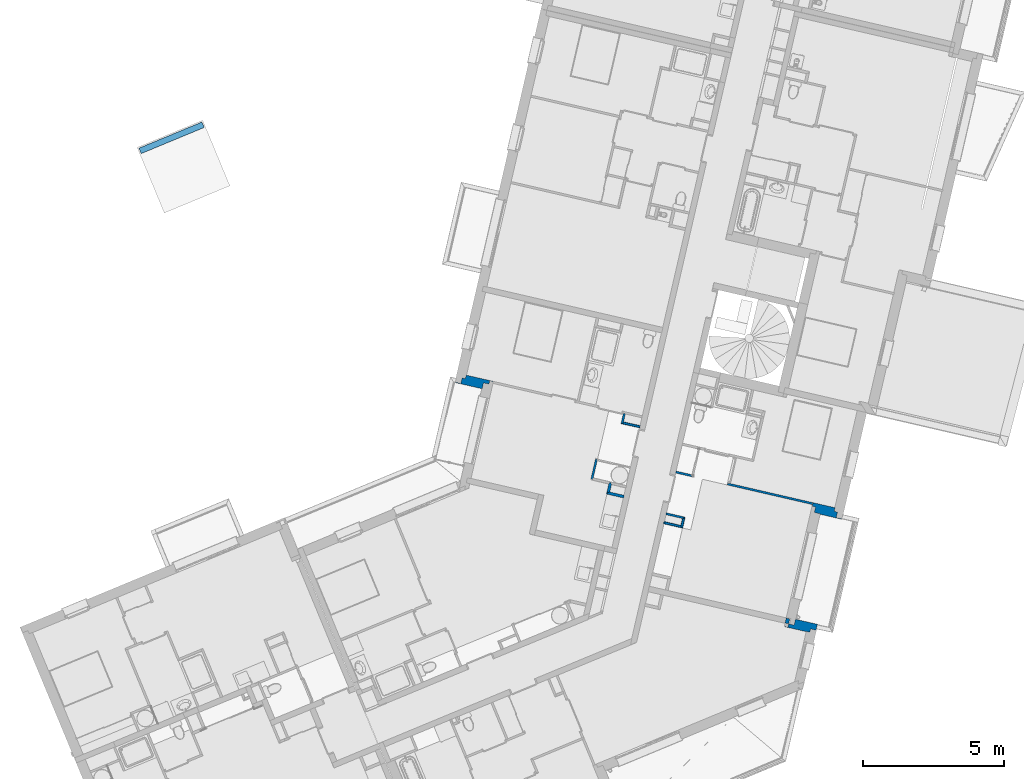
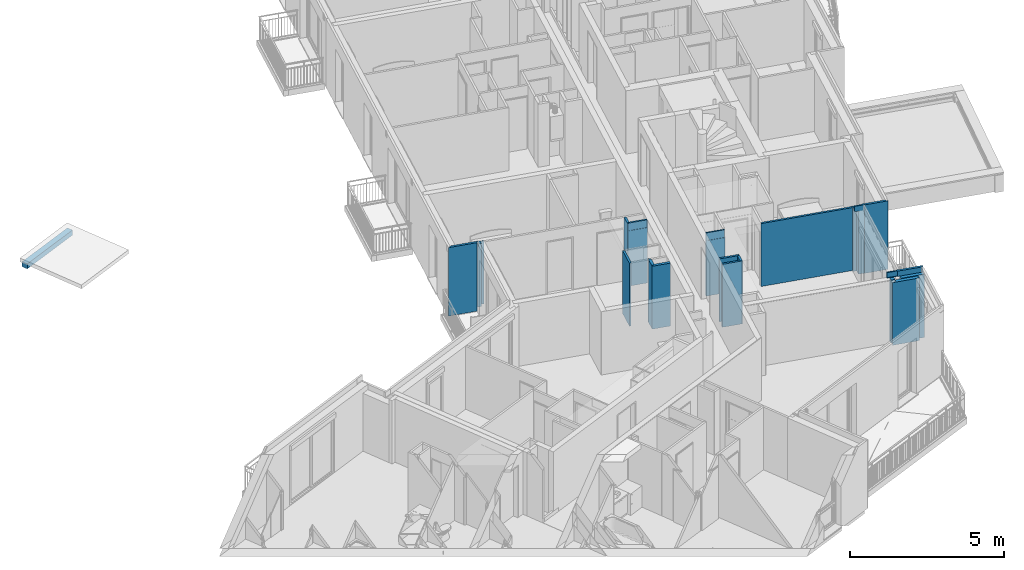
# One storey, part 45 of 90: 15 walls.
"""IFC2X3 building model written with IfcOpenShell, lengths in metres."""

from ifc_helpers import new_model, entity, si_unit, converted_unit, derived_unit, money_unit, direction, frame, origin_with_axes, place, context, subcontext, project, spatial, faceted_brep, material, material_list, type_object, element, save


model = new_model("IFC2X3")

# Units and contexts
model_context = context("Model", 3, precision=1e-05, world=origin_with_axes(), true_north=direction((0.0, 1.0)))
body_context = subcontext(model_context, "Body", "Model", "MODEL_VIEW")
ifc_project = project(units=[si_unit("LENGTHUNIT", "METRE"), si_unit("AREAUNIT", "SQUARE_METRE"), si_unit("VOLUMEUNIT", "CUBIC_METRE"), converted_unit("PLANEANGLEUNIT", "DEGREE", entity("IfcPlaneAngleMeasure", 0.0174532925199), si_unit("PLANEANGLEUNIT", "RADIAN"), dimensions=[0, 0, 0, 0, 0, 0, 0]), si_unit("SOLIDANGLEUNIT", "STERADIAN"), money_unit("EUR"), converted_unit("TIMEUNIT", "Year", entity("IfcTimeMeasure", 31556926.0), si_unit("TIMEUNIT", "SECOND"), dimensions=[0, 0, 1, 0, 0, 0, 0]), si_unit("MASSUNIT", "GRAM", prefix="KILO"), si_unit("THERMODYNAMICTEMPERATUREUNIT", "DEGREE_CELSIUS"), si_unit("LUMINOUSINTENSITYUNIT", "LUMEN"), si_unit("ENERGYUNIT", "JOULE", prefix="MEGA"), derived_unit("THERMALCONDUCTANCEUNIT", [(si_unit("POWERUNIT", "WATT"), 1), (si_unit("LENGTHUNIT", "METRE"), -1), (si_unit("THERMODYNAMICTEMPERATUREUNIT", "KELVIN"), -1)]), derived_unit("SPECIFICHEATCAPACITYUNIT", [(si_unit("ENERGYUNIT", "JOULE"), 1), (si_unit("MASSUNIT", "GRAM", prefix="KILO"), -1), (si_unit("THERMODYNAMICTEMPERATUREUNIT", "KELVIN"), -1)]), derived_unit("MASSDENSITYUNIT", [(si_unit("MASSUNIT", "GRAM", prefix="KILO"), 1), (si_unit("VOLUMEUNIT", "CUBIC_METRE"), -1)])], contexts=[model_context])

# Site, building, storey
site_placement = place(None, origin_with_axes())
site = spatial("IfcSite", under=ifc_project, at=site_placement, Name="Site", CompositionType="ELEMENT")
building_placement = place(site_placement, origin_with_axes())
building = spatial("IfcBuilding", under=site, at=building_placement, Name="Bâtiment", CompositionType="ELEMENT")
storey_placement = place(building_placement, frame((0.0, 0.0, 2.72), z_axis=(0.0, 0.0, 1.0), x_axis=(1.0, 0.0, 0.0)))
storey = spatial("IfcBuildingStorey", under=building, at=storey_placement, Name="R+1", CompositionType="ELEMENT", Elevation=2.72)

# Walls
ifc_material_1 = material(Name="Finition ext - Crépis")
ifc_material_2 = material(Name="Béton cellulaire")
ifc_material_3 = material(Name="Mortier")
ifc_material_4 = material(Name="Isolation - Polystyrène expansé")
ifc_material_5 = material(Name="Bloc ELITHERM")
ifc_material_6 = material(Name="Isolation - Polystyrène extrudé")
ifc_material_7 = material(Name="Finition int - Plaque de plâtre")
ifc_material_list_1 = material_list([ifc_material_1, ifc_material_2, ifc_material_3, ifc_material_4, ifc_material_5, ifc_material_6, ifc_material_7])
wall_type_1 = type_object("IfcWallType", Name="Mur ALKERN + planelle 21 345 x 2720", PredefinedType="USERDEFINED")
wall_1_placement = place(storey_placement, frame((-6.23759285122, -14.1084121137, 0.0), z_axis=(0.0, 0.0, 1.0), x_axis=(-0.974387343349, 0.224876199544, 0.0)))
element("IfcWall", 1, at=wall_1_placement, inside=storey, type_object=wall_type_1, material=ifc_material_list_1, Name="Mue bloc ALKERN isolé", ObjectType="SOLIDWALL", context=body_context, shape_type="Brep", body=[
    faceted_brep([(0.799999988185, 0.0, 2.71999999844), (0.0149999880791, 0.0, 2.72), (0.0149999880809, -0.0149999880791, 2.72), (0.799999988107, -0.0149999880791, 2.71999999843), (0.0149999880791, 0.0, 0.0), (0.799999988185, 0.0, 2.51000000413), (0.814999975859, 0.0, 2.51000000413), (0.81499998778, 0.0, 0.0), (0.0149999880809, -0.0149999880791, 0.0), (0.814999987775, -0.0149999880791, 0.0), (0.814999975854, -0.0149999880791, 2.51000000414), (0.799999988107, -0.0149999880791, 2.51000000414)], [[[0, 1, 2, 3]], [[4, 1, 0, 5, 6, 7]], [[8, 2, 1, 4]], [[3, 2, 8, 9, 10, 11]], [[5, 0, 3, 11]], [[5, 11, 10, 6]], [[7, 6, 10, 9]], [[4, 7, 9, 8]]]),
    faceted_brep([(0.0629999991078, -0.015, 2.72), (0.0629999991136, -0.0629999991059, 2.72), (1.14499997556, -0.0629999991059, 2.71999999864), (1.14499997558, -0.015, 2.71999999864), (0.0629999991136, -0.0629999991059, 2.51999999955), (0.0629999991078, -0.015, 2.51999999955), (1.14499997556, -0.0629999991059, 2.51999999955), (1.14499997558, -0.015, 2.51999999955)], [[[0, 1, 2, 3]], [[4, 1, 0, 5]], [[1, 4, 6, 2]], [[7, 3, 2, 6]], [[5, 0, 3, 7]], [[4, 5, 7, 6]]]),
    faceted_brep([(0.0830000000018, -0.015, 2.52), (0.0830000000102, -0.083, 2.52), (1.14499997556, -0.083, 2.52), (1.14499997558, -0.015, 2.52), (0.0830000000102, -0.083, 2.51), (0.0830000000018, -0.015, 2.51), (1.14499997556, -0.083, 2.51), (1.14499997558, -0.015, 2.51)], [[[0, 1, 2, 3]], [[4, 1, 0, 5]], [[1, 4, 6, 2]], [[7, 3, 2, 6]], [[5, 0, 3, 7]], [[4, 5, 7, 6]]]),
    faceted_brep([(0.882999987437, -0.083000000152, 2.51999999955), (0.882999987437, -0.083, 2.72), (0.0830000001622, -0.083000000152, 2.72), (0.0830000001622, -0.083000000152, 2.51999999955), (0.882999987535, -0.0629999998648, 2.71999999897), (0.883000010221, -0.0630000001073, 2.51999999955), (0.0830000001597, -0.0630000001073, 2.72), (0.0830000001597, -0.0630000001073, 2.51999999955)], [[[0, 1, 2, 3]], [[4, 1, 0, 5]], [[1, 4, 6, 2]], [[7, 3, 2, 6]], [[5, 0, 3, 7]], [[4, 5, 7, 6]]]),
    faceted_brep([(1.01499999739, -0.214999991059, 0.0), (1.01499999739, -0.214999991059, 2.51000000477), (0.214999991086, -0.214999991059, 2.50999999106), (0.214999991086, -0.214999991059, 0.0), (1.01499999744, -0.0829999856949, 2.51000000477), (1.01499999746, -0.015, 0.0), (1.01499999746, -0.015, 2.51000000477), (0.214999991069, -0.0829999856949, 2.50999999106), (0.214999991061, -0.015, 2.50999999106), (0.214999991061, -0.015, 0.0)], [[[0, 1, 2, 3]], [[4, 1, 0, 5, 6]], [[1, 4, 7, 2]], [[3, 2, 7, 8, 9]], [[5, 0, 3, 9]], [[6, 5, 9, 8]], [[4, 6, 8, 7]]]),
    faceted_brep([(0.335000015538, -0.335000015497, 0.0), (1.13500000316, -0.335000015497, 0.0), (1.13500000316, -0.335000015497, 2.51000000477), (0.335000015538, -0.335000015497, 2.51), (0.335000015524, -0.215000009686, 0.0), (1.1350000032, -0.215000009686, 0.0), (1.1350000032, -0.215000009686, 2.51000000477), (0.335000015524, -0.215000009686, 2.51)], [[[0, 1, 2, 3]], [[4, 5, 1, 0]], [[5, 6, 2, 1]], [[3, 2, 6, 7]], [[4, 0, 3, 7]], [[7, 6, 5, 4]]]),
    faceted_brep([(1.14499995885, -0.335000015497, 2.51000000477), (0.344999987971, -0.335000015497, 2.51), (0.344999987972, -0.34499998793, 2.51), (1.14499995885, -0.34499998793, 2.51000000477), (1.14499995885, -0.335000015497, 0.0), (0.344999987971, -0.335000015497, 0.0), (0.344999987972, -0.34499998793, 0.0), (1.14499995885, -0.34499998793, 0.0)], [[[0, 1, 2, 3]], [[4, 5, 1, 0]], [[5, 6, 2, 1]], [[3, 2, 6, 7]], [[7, 4, 0, 3]], [[7, 6, 5, 4]]]),
])
wall_2_placement = place(storey_placement, frame((-19.0200334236, -9.47366806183, 0.0), z_axis=(0.0, 0.0, 1.0), x_axis=(-0.974387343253, 0.22487619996, 0.0)))
element("IfcWall", 2, at=wall_2_placement, inside=storey, type_object=wall_type_1, material=ifc_material_list_1, Name="Mue bloc ALKERN isolé", ObjectType="SOLIDWALL", context=body_context, shape_type="Brep", body=[
    faceted_brep([(0.965018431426, 0.0, 2.72), (0.0, 0.0, 2.72), (0.0, -0.0149999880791, 2.72), (0.965018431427, -0.0149999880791, 2.72), (0.0, 0.0, 0.0), (0.965018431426, 0.0, 0.0), (0.0, -0.0149999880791, 0.0), (0.965018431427, -0.0149999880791, 0.0)], [[[0, 1, 2, 3]], [[4, 1, 0, 5]], [[6, 2, 1, 4]], [[3, 2, 6, 7]], [[5, 0, 3, 7]], [[7, 6, 4, 5]]]),
    faceted_brep([(-0.0150000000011, -0.015, 2.72), (-0.0150000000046, -0.0629999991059, 2.72), (0.917018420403, -0.0629999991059, 2.72), (0.9170184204, -0.015, 2.72), (-0.0150000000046, -0.0629999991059, 2.51999999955), (-0.0150000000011, -0.015, 2.51999999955), (0.917018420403, -0.0629999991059, 2.51999999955), (0.9170184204, -0.015, 2.51999999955)], [[[0, 1, 2, 3]], [[4, 1, 0, 5]], [[1, 4, 6, 2]], [[3, 2, 6, 7]], [[5, 0, 3, 7]], [[4, 5, 7, 6]]]),
    faceted_brep([(-0.0150000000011, -0.015, 2.52), (-0.015000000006, -0.083, 2.52), (0.89701841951, -0.083, 2.52), (0.897018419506, -0.015, 2.52), (-0.015000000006, -0.083, 2.51), (-0.0150000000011, -0.015, 2.51), (0.89701841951, -0.083, 2.51), (0.897018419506, -0.015, 2.51)], [[[0, 1, 2, 3]], [[4, 1, 0, 5]], [[1, 4, 6, 2]], [[3, 2, 6, 7]], [[5, 0, 3, 7]], [[4, 5, 7, 6]]]),
    faceted_brep([(0.897018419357, -0.0630000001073, 2.72), (-0.0630000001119, -0.0630000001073, 2.72), (-0.0630000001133, -0.083000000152, 2.72), (0.897018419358, -0.083000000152, 2.72), (0.897018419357, -0.0630000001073, 2.51999999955), (-0.0630000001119, -0.0630000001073, 2.51999999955), (-0.0630000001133, -0.083000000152, 2.51999999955), (0.897018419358, -0.083000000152, 2.51999999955)], [[[0, 1, 2, 3]], [[4, 5, 1, 0]], [[5, 6, 2, 1]], [[3, 2, 6, 7]], [[4, 0, 3, 7]], [[7, 6, 5, 4]]]),
    faceted_brep([(-0.015000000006, -0.0829999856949, 2.50999999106), (-0.0150000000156, -0.214999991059, 2.50999999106), (0.765018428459, -0.214999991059, 2.50999999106), (0.765018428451, -0.0829999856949, 2.50999999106), (-0.0150000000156, -0.214999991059, 0.0), (-0.0150000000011, -0.015, 2.50999999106), (-0.0150000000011, -0.015, 0.0), (0.765018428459, -0.214999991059, 0.0), (0.765018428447, -0.015, 0.0), (0.765018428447, -0.015, 2.50999999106)], [[[0, 1, 2, 3]], [[4, 1, 0, 5, 6]], [[1, 4, 7, 2]], [[3, 2, 7, 8, 9]], [[5, 0, 3, 9]], [[6, 5, 9, 8]], [[4, 6, 8, 7]]]),
    faceted_brep([(0.645018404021, -0.215000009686, 2.51), (-0.215000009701, -0.215000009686, 2.51), (-0.21500000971, -0.335000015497, 2.51), (0.645018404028, -0.335000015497, 2.51), (0.645018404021, -0.215000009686, 0.0), (-0.215000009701, -0.215000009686, 0.0), (-0.21500000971, -0.335000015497, 0.0), (0.645018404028, -0.335000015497, 0.0)], [[[0, 1, 2, 3]], [[4, 5, 1, 0]], [[5, 6, 2, 1]], [[3, 2, 6, 7]], [[4, 0, 3, 7]], [[7, 6, 5, 4]]]),
    faceted_brep([(0.635018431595, -0.335000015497, 2.51), (-0.335000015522, -0.335000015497, 2.51), (-0.335000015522, -0.34499998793, 2.51), (0.635018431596, -0.34499998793, 2.51), (0.635018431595, -0.335000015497, 0.0), (-0.335000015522, -0.335000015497, 0.0), (-0.335000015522, -0.34499998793, 0.0), (0.635018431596, -0.34499998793, 0.0)], [[[0, 1, 2, 3]], [[4, 5, 1, 0]], [[5, 6, 2, 1]], [[3, 2, 6, 7]], [[4, 0, 3, 7]], [[7, 6, 5, 4]]]),
])
wall_3_placement = place(storey_placement, frame((-7.87725590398, -17.655550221, 0.0), z_axis=(0.0, 0.0, 1.0), x_axis=(0.974387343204, -0.224876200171, 0.0)))
element("IfcWall", 3, at=wall_3_placement, inside=storey, type_object=wall_type_1, material=ifc_material_list_1, Name="Mue bloc ALKERN isolé", ObjectType="SOLIDWALL", context=body_context, shape_type="Brep", body=[
    faceted_brep([(-0.0830000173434, 0.0, 2.51), (-0.0830000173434, 0.0, 2.72), (0.799999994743, 0.0, 2.72), (0.799999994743, 0.0, 0.0), (0.0, 0.0, 0.0), (0.0, 0.0, 2.51000000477), (-0.0149999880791, 0.0, 2.51000000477), (-0.0830000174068, -0.0149999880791, 2.72), (-0.0830000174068, -0.0149999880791, 2.51), (0.799999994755, -0.0149999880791, 2.72), (0.799999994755, -0.0149999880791, 0.0), (0.0, -0.0149999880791, 0.0), (0.0, -0.0149999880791, 2.51000000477), (-0.0149999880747, -0.0149999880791, 2.51000000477)], [[[0, 1, 2, 3, 4, 5, 6]], [[7, 1, 0, 8]], [[1, 7, 9, 2]], [[9, 10, 3, 2]], [[10, 11, 4, 3]], [[12, 5, 4, 11]], [[13, 6, 5, 12]], [[8, 0, 6, 13]], [[7, 8, 13, 12, 11, 10, 9]]]),
    faceted_brep([(0.785000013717, -0.0629999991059, 2.72), (0.785000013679, -0.015, 2.72), (-0.44499998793, -0.015, 2.72), (-0.44499998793, -0.0629999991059, 2.72), (0.785000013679, -0.015, 2.51999999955), (0.785000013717, -0.0629999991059, 2.51999999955), (-0.44499998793, -0.015, 2.51999999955), (-0.44499998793, -0.0629999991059, 2.51999999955)], [[[0, 1, 2, 3]], [[4, 1, 0, 5]], [[1, 4, 6, 2]], [[6, 7, 3, 2]], [[5, 0, 3, 7]], [[4, 5, 7, 6]]]),
    faceted_brep([(0.785000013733, -0.083, 2.51999999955), (0.785000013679, -0.015, 2.51999999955), (-0.44499998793, -0.015, 2.52), (-0.44499998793, -0.083, 2.52), (0.785000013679, -0.015, 2.50999999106), (0.785000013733, -0.083, 2.50999999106), (-0.44499998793, -0.015, 2.51), (-0.44499998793, -0.083, 2.51)], [[[0, 1, 2, 3]], [[4, 1, 0, 5]], [[1, 4, 6, 2]], [[7, 3, 2, 6]], [[5, 0, 3, 7]], [[4, 5, 7, 6]]]),
    faceted_brep([(-0.0830000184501, -0.0630000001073, 2.51999999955), (-0.0830000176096, -0.0630000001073, 2.72), (0.73700000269, -0.0630000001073, 2.72), (0.73700000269, -0.0630000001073, 2.51999999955), (-0.0830000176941, -0.083000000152, 2.72), (-0.083000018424, -0.083000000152, 2.51999999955), (0.737000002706, -0.083000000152, 2.72), (0.737000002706, -0.083000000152, 2.51999999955)], [[[0, 1, 2, 3]], [[4, 1, 0, 5]], [[1, 4, 6, 2]], [[7, 3, 2, 6]], [[5, 0, 3, 7]], [[4, 5, 7, 6]]]),
    faceted_brep([(0.785000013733, -0.0829999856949, 2.50999999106), (0.785000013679, -0.015, 2.50999999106), (-0.0149999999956, -0.015, 2.51000000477), (-0.0149999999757, -0.0829999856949, 2.51000000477), (0.785000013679, -0.015, 0.0), (0.785000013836, -0.214999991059, 2.50999999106), (0.785000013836, -0.214999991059, 0.0), (-0.0149999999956, -0.015, 0.0), (-0.0149999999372, -0.214999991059, 0.0), (-0.0149999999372, -0.214999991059, 2.51000000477)], [[[0, 1, 2, 3]], [[4, 1, 0, 5, 6]], [[1, 4, 7, 2]], [[3, 2, 7, 8, 9]], [[5, 0, 3, 9]], [[6, 5, 9, 8]], [[4, 6, 8, 7]]]),
    faceted_brep([(-0.215000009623, -0.215000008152, 2.49), (0.585000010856, -0.215000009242, 2.49), (0.585000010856, -0.215000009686, 0.0), (-0.215000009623, -0.215000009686, 0.0), (0.58500001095, -0.335000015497, 2.49), (-0.215000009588, -0.335000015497, 2.49), (0.58500001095, -0.335000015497, 0.0), (-0.215000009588, -0.335000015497, 0.0)], [[[0, 1, 2, 3]], [[4, 1, 0, 5]], [[1, 4, 6, 2]], [[3, 2, 6, 7]], [[5, 0, 3, 7]], [[4, 5, 7, 6]]]),
    faceted_brep([(-0.335000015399, -0.335000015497, 2.49), (0.464999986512, -0.335000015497, 2.49), (0.464999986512, -0.335000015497, 0.0), (-0.335000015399, -0.335000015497, 0.0), (0.46499998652, -0.34499998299, 2.49), (-0.335000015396, -0.344999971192, 2.49), (0.46499998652, -0.34499998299, 0.0), (-0.335000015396, -0.344999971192, 0.0)], [[[0, 1, 2, 3]], [[4, 1, 0, 5]], [[1, 4, 6, 2]], [[3, 2, 6, 7]], [[5, 0, 3, 7]], [[4, 5, 7, 6]]]),
])
ifc_material_8 = material(Name="Isolation - Laine de roche")
ifc_material_list_2 = material_list([ifc_material_7, ifc_material_8, ifc_material_7])
wall_type_2 = type_object("IfcWallType", Name="3 - Cloison 72mm Placostil 74", PredefinedType="USERDEFINED")
wall_4_placement = place(storey_placement, frame((-12.6519304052, -13.8329242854, 0.0), z_axis=(0.0, 0.0, 1.0), x_axis=(0.974387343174, -0.224876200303, 0.0)))
element("IfcWall", 4, at=wall_4_placement, inside=storey, type_object=wall_type_2, material=ifc_material_list_2, Name="Cloison Placostil 72/48", ObjectType="PARTITIONING", context=body_context, shape_type="Brep", body=[
    faceted_brep([(0.865000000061, -0.013, 2.5), (0.865000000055, 0.0, 2.5), (0.180000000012, 0.0, 2.5), (0.180000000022, -0.013, 2.5), (0.865000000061, -0.013, 0.0), (0.865000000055, 0.0, 0.0), (0.180000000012, 0.0, 0.0), (0.180000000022, -0.013, 0.0)], [[[0, 1, 2, 3]], [[1, 0, 4, 5]], [[1, 5, 6, 2]], [[7, 3, 2, 6]], [[4, 0, 3, 7]], [[5, 4, 7, 6]]]),
    faceted_brep([(0.852000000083, -0.061, 2.5), (0.852000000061, -0.013, 2.5), (0.180000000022, -0.013, 2.5), (0.180000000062, -0.061, 2.5), (0.852000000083, -0.061, 0.0), (0.852000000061, -0.013, 0.0), (0.180000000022, -0.013, 0.0), (0.180000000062, -0.061, 0.0)], [[[0, 1, 2, 3]], [[1, 0, 4, 5]], [[1, 5, 6, 2]], [[7, 3, 2, 6]], [[4, 0, 3, 7]], [[5, 4, 7, 6]]]),
    faceted_brep([(0.804000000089, -0.074, 2.5), (0.804000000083, -0.061, 2.5), (0.180000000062, -0.061, 2.5), (0.180000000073, -0.074, 2.5), (0.804000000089, -0.074, 0.0), (0.804000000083, -0.061, 0.0), (0.180000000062, -0.061, 0.0), (0.180000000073, -0.074, 0.0)], [[[0, 1, 2, 3]], [[1, 0, 4, 5]], [[1, 5, 6, 2]], [[7, 3, 2, 6]], [[4, 0, 3, 7]], [[5, 4, 7, 6]]]),
])
wall_5_placement = place(storey_placement, frame((-11.8090853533, -14.0274421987, 0.0), z_axis=(0.0, 0.0, 1.0), x_axis=(-0.224876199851, -0.974387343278, 0.0)))
element("IfcWall", 5, at=wall_5_placement, inside=storey, type_object=wall_type_2, material=ifc_material_list_2, Name="Cloison Placostil 72/48", ObjectType="PARTITIONING", context=body_context, shape_type="Brep", body=[
    faceted_brep([(0.399009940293, -0.013, 2.5), (0.399009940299, 0.0, 2.5), (0.013, 0.0, 2.5), (0.012999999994, -0.013, 2.5), (0.399009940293, -0.013, 0.0), (0.399009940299, 0.0, 0.0), (0.013, 0.0, 0.0), (0.012999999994, -0.013, 0.0)], [[[0, 1, 2, 3]], [[1, 0, 4, 5]], [[1, 5, 6, 2]], [[7, 3, 2, 6]], [[4, 0, 3, 7]], [[5, 4, 7, 6]]]),
    faceted_brep([(0.38600994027, -0.061, 2.5), (0.386009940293, -0.013, 2.5), (0.060999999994, -0.013, 2.5), (0.0609999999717, -0.061, 2.5), (0.38600994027, -0.061, 0.0), (0.386009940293, -0.013, 0.0), (0.060999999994, -0.013, 0.0), (0.0609999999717, -0.061, 0.0)], [[[0, 1, 2, 3]], [[1, 0, 4, 5]], [[1, 5, 6, 2]], [[7, 3, 2, 6]], [[4, 0, 3, 7]], [[5, 4, 7, 6]]]),
    faceted_brep([(0.338009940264, -0.074, 2.5), (0.33800994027, -0.061, 2.5), (0.0739999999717, -0.061, 2.5), (0.0739999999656, -0.074, 2.5), (0.338009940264, -0.074, 0.0), (0.33800994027, -0.061, 0.0), (0.0739999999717, -0.061, 0.0), (0.0739999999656, -0.074, 0.0)], [[[0, 1, 2, 3]], [[1, 0, 4, 5]], [[1, 5, 6, 2]], [[7, 3, 2, 6]], [[4, 0, 3, 7]], [[5, 4, 7, 6]]]),
])
wall_6_placement = place(storey_placement, frame((-12.7250174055, -14.1496098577, 0.0), z_axis=(0.0, 0.0, 1.0), x_axis=(0.974387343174, -0.224876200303, 0.0)))
element("IfcWall", 6, at=wall_6_placement, inside=storey, type_object=wall_type_2, material=ifc_material_list_2, Name="Cloison Placostil 72/48", ObjectType="PARTITIONING", context=body_context, shape_type="Brep", body=[
    faceted_brep([(0.791000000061, -0.013, 2.5), (0.791000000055, 0.0, 2.5), (0.18000000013, 0.0, 2.5), (0.180000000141, -0.013, 2.5), (0.791000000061, -0.013, 0.0), (0.791000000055, 0.0, 0.0), (0.18000000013, 0.0, 0.0), (0.180000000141, -0.013, 0.0)], [[[0, 1, 2, 3]], [[1, 0, 4, 5]], [[1, 5, 6, 2]], [[7, 3, 2, 6]], [[4, 0, 3, 7]], [[5, 4, 7, 6]]]),
    faceted_brep([(0.804000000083, -0.061, 2.5), (0.804000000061, -0.013, 2.5), (0.180000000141, -0.013, 2.5), (0.180000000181, -0.061, 2.5), (0.804000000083, -0.061, 0.0), (0.804000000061, -0.013, 0.0), (0.180000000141, -0.013, 0.0), (0.180000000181, -0.061, 0.0)], [[[0, 1, 2, 3]], [[1, 0, 4, 5]], [[1, 5, 6, 2]], [[7, 3, 2, 6]], [[4, 0, 3, 7]], [[5, 4, 7, 6]]]),
    faceted_brep([(0.852000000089, -0.074, 2.5), (0.852000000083, -0.061, 2.5), (0.180000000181, -0.061, 2.5), (0.180000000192, -0.074, 2.5), (0.852000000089, -0.074, 0.0), (0.852000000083, -0.061, 0.0), (0.180000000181, -0.061, 0.0), (0.180000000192, -0.074, 0.0)], [[[0, 1, 2, 3]], [[1, 0, 4, 5]], [[1, 5, 6, 2]], [[7, 3, 2, 6]], [[4, 0, 3, 7]], [[5, 4, 7, 6]]]),
])
wall_7_placement = place(storey_placement, frame((-15.1386228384, -12.627824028, 0.0), z_axis=(0.0, 0.0, 1.0), x_axis=(0.224876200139, 0.974387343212, 0.0)))
element("IfcWall", 7, at=wall_7_placement, inside=storey, type_object=wall_type_2, material=ifc_material_list_2, Name="Cloison Placostil 72/48", ObjectType="PARTITIONING", context=body_context, shape_type="Brep", body=[
    faceted_brep([(0.699999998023, -0.013, 2.5), (0.699999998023, 0.0, 2.5), (-0.074, 0.0, 2.5), (-0.0740000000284, -0.013, 2.5), (0.699999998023, -0.013, 0.0), (0.699999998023, 0.0, 0.0), (-0.074, 0.0, 0.0), (-0.0740000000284, -0.013, 0.0)], [[[0, 1, 2, 3]], [[1, 0, 4, 5]], [[1, 5, 6, 2]], [[7, 3, 2, 6]], [[4, 0, 3, 7]], [[5, 4, 7, 6]]]),
    faceted_brep([(0.686999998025, -0.061, 2.5), (0.686999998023, -0.013, 2.5), (-0.0610000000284, -0.013, 2.5), (-0.0610000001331, -0.061, 2.5), (0.686999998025, -0.061, 0.0), (0.686999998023, -0.013, 0.0), (-0.0610000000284, -0.013, 0.0), (-0.0610000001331, -0.061, 0.0)], [[[0, 1, 2, 3]], [[1, 0, 4, 5]], [[1, 5, 6, 2]], [[7, 3, 2, 6]], [[4, 0, 3, 7]], [[5, 4, 7, 6]]]),
    faceted_brep([(0.638999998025, -0.074, 2.5), (0.638999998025, -0.061, 2.5), (-0.0130000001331, -0.061, 2.5), (-0.0130000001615, -0.074, 2.5), (0.638999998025, -0.074, 0.0), (0.638999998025, -0.061, 0.0), (-0.0130000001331, -0.061, 0.0), (-0.0130000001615, -0.074, 0.0)], [[[0, 1, 2, 3]], [[1, 0, 4, 5]], [[1, 5, 6, 2]], [[7, 3, 2, 6]], [[4, 0, 3, 7]], [[5, 4, 7, 6]]]),
])
wall_8_placement = place(storey_placement, frame((-13.9815606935, -10.2824148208, 0.0), z_axis=(0.0, 0.0, 1.0), x_axis=(-0.224876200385, -0.974387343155, 0.0)))
element("IfcWall", 8, at=wall_8_placement, inside=storey, type_object=wall_type_2, material=ifc_material_list_2, Name="Cloison Placostil 72/48", ObjectType="PARTITIONING", context=body_context, shape_type="Brep", body=[
    faceted_brep([(0.376999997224, 0.074, 0.0), (0.376999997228, 0.061, 0.0), (0.0739999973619, 0.061, 0.0), (0.0739999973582, 0.074, 0.0), (0.376999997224, 0.074, 2.5), (0.376999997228, 0.061, 2.5), (0.0739999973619, 0.061, 2.5), (0.0739999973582, 0.074, 2.5)], [[[0, 1, 2, 3]], [[1, 0, 4, 5]], [[1, 5, 6, 2]], [[7, 3, 2, 6]], [[4, 0, 3, 7]], [[5, 4, 7, 6]]]),
    faceted_brep([(0.424999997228, 0.061, 0.0), (0.424999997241, 0.013, 0.0), (0.0609999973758, 0.013, 0.0), (0.0609999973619, 0.061, 0.0), (0.424999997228, 0.061, 2.5), (0.424999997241, 0.013, 2.5), (0.0609999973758, 0.013, 2.5), (0.0609999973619, 0.061, 2.5)], [[[0, 1, 2, 3]], [[1, 0, 4, 5]], [[1, 5, 6, 2]], [[7, 3, 2, 6]], [[4, 0, 3, 7]], [[5, 4, 7, 6]]]),
    faceted_brep([(0.437999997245, 0.0, 2.5), (0.43722848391, 0.013, 2.5), (0.0739999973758, 0.013, 2.5), (0.0739999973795, 0.0, 2.5), (0.43722848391, 0.013, 2.2), (0.437999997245, 0.0, 2.2), (0.437999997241, 0.013, 2.2), (0.437999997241, 0.013, 0.0), (0.0739999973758, 0.013, 0.0), (0.0739999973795, 0.0, 0.0), (0.437999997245, 0.0, 0.0)], [[[0, 1, 2, 3]], [[4, 1, 0, 5]], [[4, 6, 7, 8, 2, 1]], [[2, 8, 9, 3]], [[5, 0, 3, 9, 10]], [[6, 4, 5]], [[6, 5, 10, 7]], [[7, 10, 9, 8]]]),
])
wall_9_placement = place(storey_placement, frame((-7.29232488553, -13.5868699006, 0.0), z_axis=(0.0, 0.0, 1.0), x_axis=(-0.974387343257, 0.224876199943, 0.0)))
element("IfcWall", 9, at=wall_9_placement, inside=storey, type_object=wall_type_2, material=ifc_material_list_2, Name="Cloison Placostil 72/48", ObjectType="PARTITIONING", context=body_context, shape_type="Brep", body=[
    faceted_brep([(3.1070000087, -0.013, 2.5), (3.1070000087, 0.0, 2.5), (0.0, 0.0, 2.5), (0.0, -0.013, 2.5), (3.1070000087, -0.013, 0.0), (3.1070000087, 0.0, 0.0), (0.0, 0.0, 0.0), (0.0, -0.013, 0.0)], [[[0, 1, 2, 3]], [[1, 0, 4, 5]], [[1, 5, 6, 2]], [[7, 3, 2, 6]], [[4, 0, 3, 7]], [[5, 4, 7, 6]]]),
    faceted_brep([(3.09400000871, -0.061, 2.5), (3.0940000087, -0.013, 2.5), (0.0, -0.013, 2.5), (0.0, -0.061, 2.5), (3.09400000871, -0.061, 0.0), (3.0940000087, -0.013, 0.0), (0.0, -0.013, 0.0), (0.0, -0.061, 0.0)], [[[0, 1, 2, 3]], [[1, 0, 4, 5]], [[1, 5, 6, 2]], [[7, 3, 2, 6]], [[4, 0, 3, 7]], [[5, 4, 7, 6]]]),
    faceted_brep([(3.04600000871, -0.074, 2.5), (3.04600000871, -0.061, 2.5), (0.0, -0.061, 2.5), (0.0, -0.074, 2.5), (3.04600000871, -0.074, 0.0), (3.04600000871, -0.061, 0.0), (0.0, -0.061, 0.0), (0.0, -0.074, 0.0)], [[[0, 1, 2, 3]], [[1, 0, 4, 5]], [[1, 5, 6, 2]], [[7, 3, 2, 6]], [[4, 0, 3, 7]], [[5, 4, 7, 6]]]),
])
wall_10_placement = place(storey_placement, frame((-12.1418507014, -12.467661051, 0.0), z_axis=(0.0, 0.0, 1.0), x_axis=(0.974387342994, -0.224876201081, 0.0)))
element("IfcWall", 10, at=wall_10_placement, inside=storey, type_object=wall_type_2, material=ifc_material_list_2, Name="Cloison Placostil 72/48", ObjectType="PARTITIONING", context=body_context, shape_type="Brep", body=[
    faceted_brep([(0.588999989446, 0.0640000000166, 0.0), (0.588999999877, 0.0640000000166, 2.2), (0.588999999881, 0.061, 2.2), (0.588999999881, 0.061, 0.0), (0.585999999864, 0.0640000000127, 2.2), (0.585999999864, 0.0640000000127, 0.0), (0.576000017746, 0.0739999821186, 2.2), (0.0, 0.074, 2.2), (0.0, 0.061, 2.2), (0.0, 0.061, 0.0), (0.0, 0.074, 0.0), (0.576000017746, 0.0739999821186, 0.0)], [[[0, 1, 2, 3]], [[4, 1, 0, 5]], [[4, 6, 7, 8, 2, 1]], [[3, 2, 8, 9]], [[5, 0, 3, 9, 10, 11]], [[6, 4, 5, 11]], [[6, 11, 10, 7]], [[9, 8, 7, 10]]]),
    faceted_brep([(0.0, 0.061, 0.0), (0.636999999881, 0.061, 0.0), (0.636999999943, 0.013, 0.0), (0.0, 0.013, 0.0), (0.0, 0.061, 2.5), (0.636999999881, 0.061, 2.5), (0.636999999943, 0.013, 2.5), (0.0, 0.013, 2.5)], [[[0, 1, 2, 3]], [[4, 5, 1, 0]], [[6, 2, 1, 5]], [[3, 2, 6, 7]], [[7, 4, 0, 3]], [[7, 6, 5, 4]]]),
    faceted_brep([(0.0, 0.013, 0.0), (0.0, 0.013, 2.2), (0.649999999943, 0.013, 2.2), (0.649999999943, 0.013, 0.0), (0.0, 0.0, 0.0), (0.0, 0.0, 2.2), (0.64999999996, 0.0, 2.2), (0.64999999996, 0.0, 0.0)], [[[0, 1, 2, 3]], [[4, 5, 1, 0]], [[5, 6, 2, 1]], [[3, 2, 6, 7]], [[0, 3, 7, 4]], [[7, 6, 5, 4]]]),
])
wall_11_placement = place(storey_placement, frame((-14.0800564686, -10.7091964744, 0.0), z_axis=(0.0, 0.0, 1.0), x_axis=(0.97438734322, -0.224876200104, 0.0)))
element("IfcWall", 11, at=wall_11_placement, inside=storey, type_object=wall_type_2, material=ifc_material_list_2, Name="Cloison Placostil 72/48", ObjectType="PARTITIONING", context=body_context, shape_type="Brep", body=[
    faceted_brep([(0.0740000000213, 0.074, 0.0), (0.675185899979, 0.074, 0.0), (0.675185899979, 0.061, 0.0), (0.0740000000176, 0.061, 0.0), (0.0740000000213, 0.074, 2.5), (0.675185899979, 0.074, 2.5), (0.675185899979, 0.061, 2.5), (0.0740000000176, 0.061, 2.5)], [[[0, 1, 2, 3]], [[4, 5, 1, 0]], [[2, 1, 5, 6]], [[3, 2, 6, 7]], [[4, 0, 3, 7]], [[7, 6, 5, 4]]]),
    faceted_brep([(0.0610000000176, 0.061, 0.0), (0.675185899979, 0.061, 0.0), (0.675185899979, 0.013, 0.0), (0.0610000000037, 0.013, 0.0), (0.0610000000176, 0.061, 2.5), (0.675185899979, 0.061, 2.5), (0.675185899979, 0.013, 2.5), (0.0610000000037, 0.013, 2.5)], [[[0, 1, 2, 3]], [[4, 5, 1, 0]], [[2, 1, 5, 6]], [[3, 2, 6, 7]], [[4, 0, 3, 7]], [[7, 6, 5, 4]]]),
    faceted_brep([(0.21905000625, 0.013, 2.2), (0.673999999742, 0.013, 2.2), (0.673999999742, 0.013, 2.5), (0.675185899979, 0.013, 2.5), (0.675185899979, 0.013, 0.0), (0.0130000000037, 0.013, 0.0), (0.0130000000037, 0.013, 2.5), (0.21905000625, 0.013, 2.5), (0.0130000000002, 0.000771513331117, 2.2), (0.013, 0.0, 2.2), (0.673999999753, 0.0, 2.2), (0.673999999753, 0.0, 2.5), (0.675185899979, 0.0, 2.5), (0.675185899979, 0.0, 0.0), (0.013, 0.0, 0.0), (0.0130000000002, 0.000771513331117, 2.5)], [[[0, 1, 2, 3, 4, 5, 6, 7]], [[1, 0, 8, 9, 10]], [[11, 2, 1, 10]], [[2, 11, 12, 3]], [[13, 4, 3, 12]], [[5, 4, 13, 14]], [[8, 15, 6, 5, 14, 9]], [[15, 7, 6]], [[0, 7, 15, 8]], [[10, 9, 14, 13, 12, 11]]]),
])
ifc_material_9 = material(Name="Béton")
wall_type_3 = type_object("IfcWallType", Name="Béton 180", PredefinedType="USERDEFINED")
wall_12_placement = place(storey_placement, frame((-8.22129019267, -17.612071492, 0.0), z_axis=(0.0, 0.0, 1.0), x_axis=(0.974387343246, -0.224876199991, 0.0)))
element("IfcWall", 12, at=wall_12_placement, inside=storey, type_object=wall_type_3, material=ifc_material_9, Name="M_Ext-009", ObjectType="SOLIDWALL", context=body_context, shape_type="Brep", body=[
    faceted_brep([(0.0, 0.0, 2.51), (0.0, -0.18, 2.51), (0.129999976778, -0.18, 2.51), (0.129999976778, 0.0, 2.51), (0.0, 0.0, 0.0), (0.0, -0.18, 0.0), (0.129999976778, -0.18, 0.0), (0.129999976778, 0.0, 0.0)], [[[0, 1, 2, 3]], [[4, 5, 1, 0]], [[1, 5, 6, 2]], [[7, 3, 2, 6]], [[4, 0, 3, 7]], [[5, 4, 7, 6]]]),
])
ifc_material_list_3 = material_list([ifc_material_7, ifc_material_7, ifc_material_8, ifc_material_7, ifc_material_7])
wall_type_4 = type_object("IfcWallType", Name="3 - Cloison Gaine Technique 98mm 100", PredefinedType="USERDEFINED")
wall_13_placement = place(storey_placement, frame((-14.5978632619, -13.2124005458, 0.0), z_axis=(0.0, 0.0, 1.0), x_axis=(0.224876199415, 0.974387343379, 0.0)))
element("IfcWall", 13, at=wall_13_placement, inside=storey, type_object=wall_type_4, material=ifc_material_list_3, Name="Cloison 98 isolée", ObjectType="PARTITIONING", context=body_context, shape_type="Brep", body=[
    faceted_brep([(0.0130000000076, -0.013, 0.0), (0.386999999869, -0.013, 0.0), (0.386999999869, -0.013, 2.5), (0.0130000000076, -0.013, 2.5), (0.013, 0.0, 0.0), (0.386999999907, 0.0, 0.0), (0.386999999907, 0.0, 2.5), (0.013, 0.0, 2.5)], [[[0, 1, 2, 3]], [[4, 5, 1, 0]], [[5, 6, 2, 1]], [[3, 2, 6, 7]], [[4, 0, 3, 7]], [[7, 6, 5, 4]]]),
    faceted_brep([(0.447999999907, 0.0, 2.5), (0.434999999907, 0.0, 2.5), (0.434999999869, -0.013, 2.5), (0.447999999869, -0.013, 2.5), (0.447999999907, 0.0, 0.0), (0.434999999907, 0.0, 0.0), (0.434999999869, -0.013, 0.0), (0.447999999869, -0.013, 0.0)], [[[0, 1, 2, 3]], [[4, 5, 1, 0]], [[5, 6, 2, 1]], [[3, 2, 6, 7]], [[4, 0, 3, 7]], [[7, 6, 5, 4]]]),
    faceted_brep([(0.0260000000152, -0.026, 0.0), (0.386999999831, -0.026, 0.0), (0.386999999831, -0.026, 2.5), (0.0260000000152, -0.026, 2.5), (0.0260000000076, -0.013, 0.0), (0.386999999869, -0.013, 0.0), (0.386999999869, -0.013, 2.5), (0.0260000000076, -0.013, 2.5)], [[[0, 1, 2, 3]], [[4, 5, 1, 0]], [[5, 6, 2, 1]], [[3, 2, 6, 7]], [[4, 0, 3, 7]], [[7, 6, 5, 4]]]),
    faceted_brep([(0.447999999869, -0.013, 2.5), (0.434999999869, -0.013, 2.5), (0.434999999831, -0.026, 2.5), (0.447999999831, -0.026, 2.5), (0.447999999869, -0.013, 0.0), (0.434999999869, -0.013, 0.0), (0.434999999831, -0.026, 0.0), (0.447999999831, -0.026, 0.0)], [[[0, 1, 2, 3]], [[4, 5, 1, 0]], [[5, 6, 2, 1]], [[3, 2, 6, 7]], [[4, 0, 3, 7]], [[7, 6, 5, 4]]]),
    faceted_brep([(0.0740000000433, -0.074, 2.5), (0.43499999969, -0.074, 2.5), (0.434999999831, -0.026, 2.5), (0.0740000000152, -0.026, 2.5), (0.0740000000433, -0.074, 0.0), (0.43499999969, -0.074, 0.0), (0.434999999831, -0.026, 0.0), (0.0740000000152, -0.026, 0.0)], [[[0, 1, 2, 3]], [[4, 5, 1, 0]], [[6, 2, 1, 5]], [[3, 2, 6, 7]], [[7, 4, 0, 3]], [[7, 6, 5, 4]]]),
    faceted_brep([(0.386999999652, -0.087, 2.5), (0.38699999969, -0.074, 2.5), (0.0870000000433, -0.074, 2.5), (0.0870000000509, -0.087, 2.5), (0.386999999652, -0.087, 0.0), (0.38699999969, -0.074, 0.0), (0.0870000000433, -0.074, 0.0), (0.0870000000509, -0.087, 0.0)], [[[0, 1, 2, 3]], [[1, 0, 4, 5]], [[1, 5, 6, 2]], [[7, 3, 2, 6]], [[4, 0, 3, 7]], [[5, 4, 7, 6]]]),
    faceted_brep([(0.386999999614, -0.1, 2.5), (0.386999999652, -0.087, 2.5), (0.100000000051, -0.087, 2.5), (0.100000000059, -0.1, 2.5), (0.386999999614, -0.1, 0.0), (0.386999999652, -0.087, 0.0), (0.100000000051, -0.087, 0.0), (0.100000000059, -0.1, 0.0)], [[[0, 1, 2, 3]], [[1, 0, 4, 5]], [[1, 5, 6, 2]], [[7, 3, 2, 6]], [[4, 0, 3, 7]], [[5, 4, 7, 6]]]),
])
wall_14_placement = place(storey_placement, frame((-13.8128643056, -13.3935683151, 0.0), z_axis=(0.0, 0.0, 1.0), x_axis=(-0.97438734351, 0.224876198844, 0.0)))
element("IfcWall", 14, at=wall_14_placement, inside=storey, type_object=wall_type_4, material=ifc_material_list_3, Name="Cloison 98 isolée", ObjectType="PARTITIONING", context=body_context, shape_type="Brep", body=[
    faceted_brep([(0.805633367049, -0.013, 2.5), (0.805633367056, 0.0, 2.5), (0.179999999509, 0.0, 2.5), (0.179999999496, -0.013, 2.5), (0.805633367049, -0.013, 0.0), (0.805633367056, 0.0, 0.0), (0.179999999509, 0.0, 0.0), (0.179999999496, -0.013, 0.0)], [[[0, 1, 2, 3]], [[1, 0, 4, 5]], [[1, 5, 6, 2]], [[7, 3, 2, 6]], [[4, 0, 3, 7]], [[5, 4, 7, 6]]]),
    faceted_brep([(0.792633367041, -0.026, 2.5), (0.792633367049, -0.013, 2.5), (0.179999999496, -0.013, 2.5), (0.179999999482, -0.026, 2.5), (0.792633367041, -0.026, 0.0), (0.792633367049, -0.013, 0.0), (0.179999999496, -0.013, 0.0), (0.179999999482, -0.026, 0.0)], [[[0, 1, 2, 3]], [[1, 0, 4, 5]], [[1, 5, 6, 2]], [[7, 3, 2, 6]], [[4, 0, 3, 7]], [[5, 4, 7, 6]]]),
    faceted_brep([(0.779633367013, -0.074, 2.5), (0.779633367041, -0.026, 2.5), (0.179999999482, -0.026, 2.5), (0.179999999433, -0.074, 2.5), (0.779633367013, -0.074, 0.0), (0.779633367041, -0.026, 0.0), (0.179999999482, -0.026, 0.0), (0.179999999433, -0.074, 0.0)], [[[0, 1, 2, 3]], [[1, 0, 4, 5]], [[1, 5, 6, 2]], [[7, 3, 2, 6]], [[4, 0, 3, 7]], [[5, 4, 7, 6]]]),
    faceted_brep([(0.731633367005, -0.087, 2.5), (0.731633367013, -0.074, 2.5), (0.179999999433, -0.074, 2.5), (0.179999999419, -0.087, 2.5), (0.731633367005, -0.087, 0.0), (0.731633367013, -0.074, 0.0), (0.179999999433, -0.074, 0.0), (0.179999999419, -0.087, 0.0)], [[[0, 1, 2, 3]], [[1, 0, 4, 5]], [[1, 5, 6, 2]], [[7, 3, 2, 6]], [[4, 0, 3, 7]], [[5, 4, 7, 6]]]),
    faceted_brep([(0.718633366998, -0.1, 2.5), (0.718633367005, -0.087, 2.5), (0.179999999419, -0.087, 2.5), (0.179999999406, -0.1, 2.5), (0.718633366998, -0.1, 0.0), (0.718633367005, -0.087, 0.0), (0.179999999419, -0.087, 0.0), (0.179999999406, -0.1, 0.0)], [[[0, 1, 2, 3]], [[1, 0, 4, 5]], [[1, 5, 6, 2]], [[7, 3, 2, 6]], [[4, 0, 3, 7]], [[5, 4, 7, 6]]]),
])
ifc_material_10 = material(Name="Finition int - Enduit plâtre")
ifc_material_list_4 = material_list([ifc_material_9, ifc_material_10])
wall_type_5 = type_object("IfcWallType", Name="2 - Murs Béton 20 + Enduit 1 Face  210", PredefinedType="USERDEFINED")
wall_15_placement = place(storey_placement, frame((-31.1821964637, -0.94180412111, 0.85), z_axis=(0.0, 0.0, 1.0), x_axis=(0.923701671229, 0.383112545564, 0.0)))
element("IfcWall", 15, at=wall_15_placement, inside=storey, type_object=wall_type_5, material=ifc_material_list_4, Name="Voile béton banché 20cm", ObjectType="SOLIDWALL", context=body_context, shape_type="Brep", body=[
    faceted_brep([(0.0, -0.2, 0.200000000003), (2.42, -0.2, 0.200000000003), (2.42, 0.0, 0.200000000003), (0.0, 0.0, 0.200000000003), (0.0, -0.2, 0.0), (2.42, -0.2, 0.0), (2.42, 0.0, 0.0), (0.0, 0.0, 0.0)], [[[0, 1, 2, 3]], [[4, 5, 1, 0]], [[2, 1, 5, 6]], [[3, 2, 6, 7]], [[4, 0, 3, 7]], [[7, 6, 5, 4]]]),
    faceted_brep([(0.0, -0.21, 0.200000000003), (2.42, -0.21, 0.200000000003), (2.42, -0.2, 0.200000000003), (0.0, -0.2, 0.200000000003), (0.0, -0.21, 0.0), (2.42, -0.21, 0.0), (2.42, -0.2, 0.0), (0.0, -0.2, 0.0)], [[[0, 1, 2, 3]], [[4, 5, 1, 0]], [[2, 1, 5, 6]], [[3, 2, 6, 7]], [[4, 0, 3, 7]], [[7, 6, 5, 4]]]),
])

save(model, "model.ifc")
